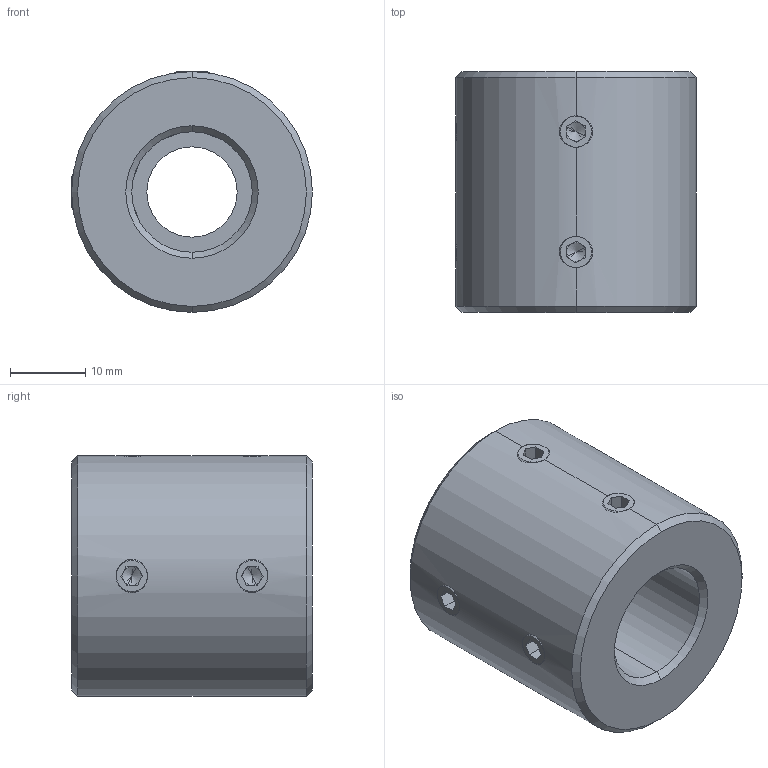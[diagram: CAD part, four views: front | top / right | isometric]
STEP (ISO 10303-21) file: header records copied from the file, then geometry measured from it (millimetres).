
FILE_DESCRIPTION (( 'STEP AP214' ), '1' );
FILE_NAME ('LL-D-D32L32-12-16½¨Ä£.STEP', '2022-07-22T11:34:00', ( '' ), ( '' ), 'SwSTEP 2.0', 'SolidWorks 2022', '' );
FILE_SCHEMA (( 'AUTOMOTIVE_DESIGN' ));
Length unit declared in the file: millimetre
Products named in the file (1): LL-D-D32L32-12-16膘耀
Bounding box: 32 x 32 x 32 mm (x, y, z)
Volume: 20507.9 mm3; surface area: 6031.9 mm2
Topology: 1 solids, 1 shells, 113 faces, 286 edges, 176 vertices
Faces by surface type: plane 59, cone 32, cylinder 22
Entity records: 3758 total; most frequent: CARTESIAN_POINT 1048, DIRECTION 558, ORIENTED_EDGE 556, EDGE_CURVE 278, AXIS2_PLACEMENT_3D 206, VERTEX_POINT 176, LINE 146, VECTOR 146
